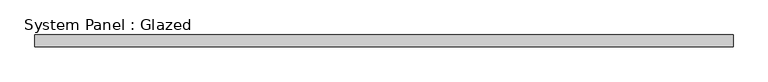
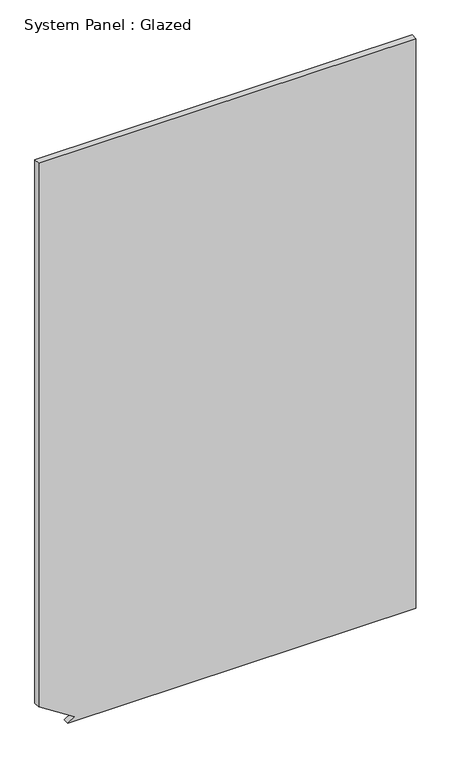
"""IFC4 building model written with IfcOpenShell, lengths in millimetres: plate geometry, System Panel : Glazed."""

from ifc_helpers import new_model, si_unit, frame, origin, place, context, project, spatial, polyline, outline, extrude, source, transform, mapped, element, save


def system_panel_glazed_50e54753(model_context):
    return source(origin(), model_context, "Body", "SweptSolid", [
        extrude(outline(polyline([(0.0, -621.8226784), (0.0, 735.8695652), (2350.0, 735.8695652), (2350.0, -735.8695652), (108.3630739, -735.8695652), (16.9766442, -594.6572346), (0.0, -621.8226784)])), frame((0.0, 24.5, 0.0), z_axis=(0.0, 1.0, 0.0), x_axis=(0.0, 0.0, 1.0)), (0.0, 0.0, 1.0), 25.0),
    ])


if __name__ == "__main__":
    model = new_model("IFC4")
    model_context = context("Model", 3, world=origin())
    ifc_project = project(units=[si_unit("LENGTHUNIT", "METRE", prefix="MILLI")], contexts=[model_context])
    site = spatial("IfcSite", under=ifc_project)
    building = spatial("IfcBuilding", under=site)
    placement = place(None, origin())
    system_panel_glazed_shape = system_panel_glazed_50e54753(model_context)
    element("IfcPlate", 1, ObjectType="System Panel : Glazed", at=placement, inside=building, context=model_context, shape_type="MappedRepresentation", body=[
        mapped(system_panel_glazed_shape, transform((0.0, 0.0, 0.0), x_axis=(1.0, 0.0, 0.0), y_axis=(0.0, 1.0, 0.0), z_axis=(0.0, 0.0, 1.0))),
    ])
    save(model, "model.ifc")
